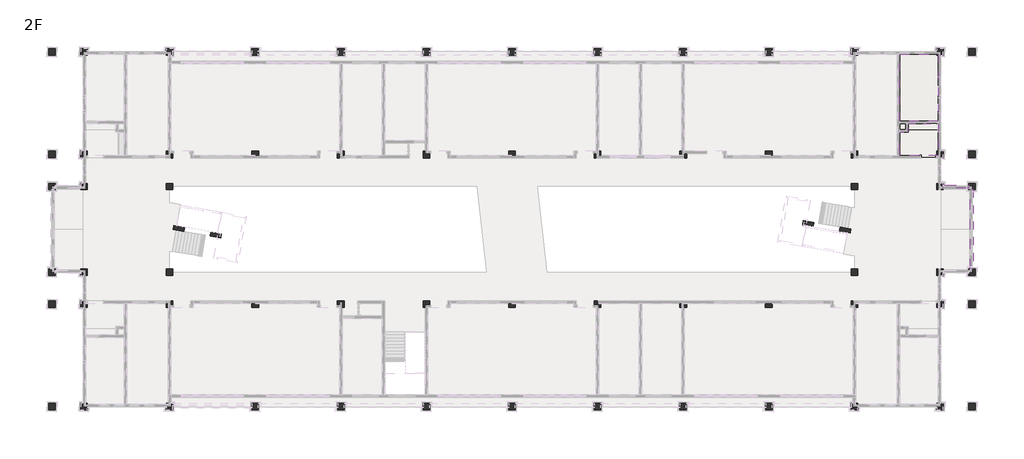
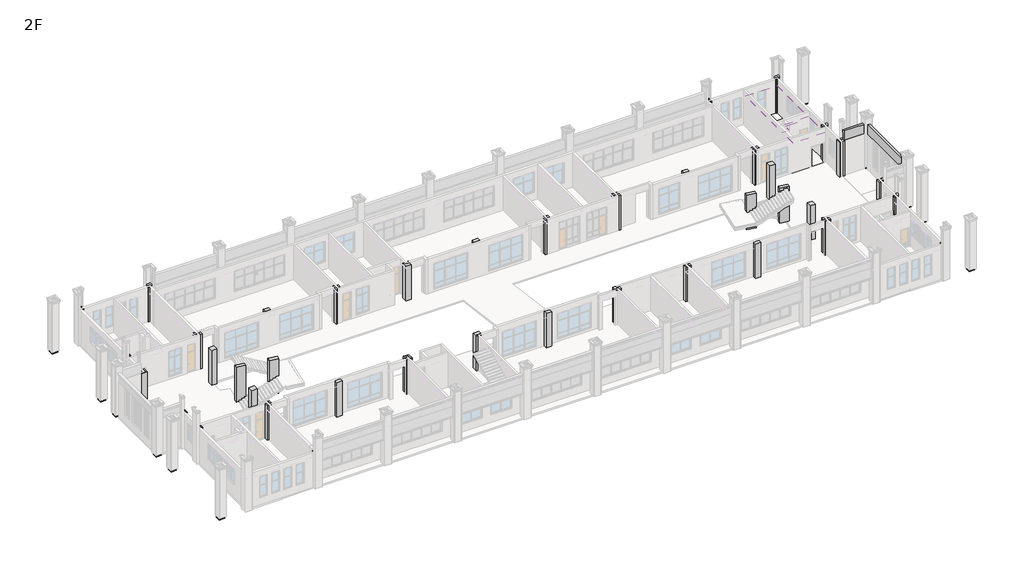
# One storey, part 10 of 16: 69 columns, 2 coverings, 2 proxies, 1 slab.
"""IFC4 building model written with IfcOpenShell, lengths in millimetres."""

from ifc_helpers import new_model, si_unit, frame, origin, place, context, project, spatial, polyline, outline, extrude, faceted_brep, transform, mapped, element, save
from components import column_400_x_1000mm_d9039fd1, column_600_x_600mm_547d8ad0, column_600_x_600mm_9016292c

model = new_model("IFC4")

# Units and contexts
model_context = context("Model", 3, world=origin())
ifc_project = project(units=[si_unit("LENGTHUNIT", "METRE", prefix="MILLI")], contexts=[model_context])

# Site, building, storey
site = spatial("IfcSite", under=ifc_project)
building = spatial("IfcBuilding", under=site)
storey = spatial("IfcBuildingStorey", under=building, Name="2F", Elevation=4200.0)

# Proxies
placement = place(None, origin())
element("IfcBuildingElementProxy", 1, Name="空调板围档", ObjectType="空调板围档", at=placement, inside=storey, context=model_context, shape_type="Brep", body=[
    faceted_brep([(86000.0000012, 12900.0, 9220.0), (86080.0000012, 12900.0, 9220.0), (86080.0000012, 12900.0, 9420.0), (86130.0000012, 12900.0, 9420.0), (86130.0000012, 12900.0, 9520.0), (85850.0000012, 12900.0, 9520.0), (85850.0000012, 12900.0, 8380.9009104), (86000.0000012, 12900.0, 8380.9009104), (86080.0000012, 20300.0, 9220.0), (86000.0000012, 20300.0, 9220.0), (86000.0000012, 20300.0, 8380.8991695), (85850.0000012, 20300.0, 8380.8991695), (85850.0000012, 20300.0, 9520.0), (86130.0000012, 20300.0, 9520.0), (86130.0000012, 20300.0, 9420.0), (86080.0000012, 20300.0, 9420.0), (85850.0000012, 16599.709847, 8392.0), (86000.0000012, 16599.709847, 8392.0)], [[[0, 1, 2, 3, 4, 5, 6, 7]], [[8, 9, 10, 11, 12, 13, 14, 15]], [[1, 0, 9, 8]], [[2, 1, 8, 15]], [[3, 2, 15, 14]], [[4, 3, 14, 13]], [[5, 4, 13, 12]], [[5, 12, 11, 16, 6]], [[9, 0, 7, 17, 10]], [[16, 17, 7, 6]], [[17, 16, 11, 10]]]),
])
element("IfcBuildingElementProxy", 2, Name="空调板围档", ObjectType="空调板围档", at=placement, inside=storey, context=model_context, shape_type="SweptSolid", body=[
    extrude(outline(polyline([(20679.7242304, 9220.0), (20599.7242304, 9220.0), (20599.7242304, 8380.0), (20449.7242304, 8380.4499984), (20449.7242304, 9520.0), (20729.7242304, 9520.0), (20729.7242304, 9420.0), (20679.7242304, 9420.0), (20679.7242304, 9220.0)])), frame((83300.0, 0.0, 0.0), z_axis=(1.0, 0.0, 0.0), x_axis=(0.0, 1.0, 0.0)), (0.0, 0.0, 1.0), 2400.0),
])

# Columns
column_400_x_1000mm_shape = column_400_x_1000mm_d9039fd1(model_context)
element("IfcColumn", 3, ObjectType="矩形柱 : 400 x 1000mm", at=placement, inside=storey, context=model_context, shape_type="MappedRepresentation", body=[
    mapped(column_400_x_1000mm_shape, transform((11868.9667373, 16678.0533194, 0.0), x_axis=(0.9848077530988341, -0.1736481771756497, 0.0), y_axis=(0.1736481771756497, 0.9848077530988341, 0.0), z_axis=(0.0, 0.0, 1.0))),
])
element("IfcColumn", 4, ObjectType="矩形柱 : 400 x 1000mm", at=placement, inside=storey, context=model_context, shape_type="MappedRepresentation", body=[
    mapped(column_400_x_1000mm_shape, transform((15303.6601701, 16071.4403614, 0.0), x_axis=(0.9848077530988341, -0.1736481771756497, 0.0), y_axis=(0.1736481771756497, 0.9848077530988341, 0.0), z_axis=(0.0, 0.0, 1.0))),
])
element("IfcColumn", 5, ObjectType="矩形柱 : 400 x 1000mm", at=placement, inside=storey, context=model_context, shape_type="MappedRepresentation", body=[
    mapped(column_400_x_1000mm_shape, transform((70696.3343657, 17127.6942221, 0.0), x_axis=(0.9848077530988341, -0.1736481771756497, 0.0), y_axis=(0.1736481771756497, 0.9848077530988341, 0.0), z_axis=(0.0, 0.0, 1.0))),
])
element("IfcColumn", 6, ObjectType="矩形柱 : 400 x 1000mm", at=placement, inside=storey, context=model_context, shape_type="MappedRepresentation", body=[
    mapped(column_400_x_1000mm_shape, transform((74131.0357292, 16521.1261705, 0.0), x_axis=(0.9848077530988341, -0.1736481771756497, 0.0), y_axis=(0.1736481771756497, 0.9848077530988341, 0.0), z_axis=(0.0, 0.0, 1.0))),
])
element("IfcColumn", 7, ObjectType="矩形柱 : 600 x 600mm", at=placement, inside=storey, context=model_context, shape_type="SweptSolid", body=[
    extrude(outline(polyline([(11300.0, 33500.0), (11300.0, 32900.0), (11133.0, 32900.0), (11133.0, 32982.6954639), (11133.0, 33232.6954639), (10700.0, 33232.6954639), (10700.0, 33500.0), (11300.0, 33500.0)])), frame((0.0, 0.0, 4200.0), z_axis=(0.0, 0.0, 1.0), x_axis=(1.0, 0.0, 0.0)), (0.0, 0.0, 1.0), 4200.0),
    extrude(outline(polyline([(10700.0, 32900.0), (10700.0, 32982.6954639), (10883.0, 32982.6954639), (10883.0, 32900.0), (10700.0, 32900.0)])), frame((0.0, 0.0, 4200.0), z_axis=(0.0, 0.0, 1.0), x_axis=(1.0, 0.0, 0.0)), (0.0, 0.0, 1.0), 4200.0),
])
element("IfcColumn", 8, ObjectType="矩形柱 : 600 x 600mm", at=placement, inside=storey, context=model_context, shape_type="SweptSolid", body=[
    extrude(outline(polyline([(2700.0, 32900.0), (2700.0, 33500.0), (3300.0, 33500.0), (3300.0, 33232.6954639), (3167.0000002, 33232.6954639), (2917.0000002, 33232.6954639), (2917.0000002, 32900.0), (2700.0, 32900.0)])), frame((0.0, 0.0, 4200.0), z_axis=(0.0, 0.0, 1.0), x_axis=(1.0, 0.0, 0.0)), (0.0, 0.0, 1.0), 4200.0),
    extrude(outline(polyline([(3300.0, 32900.0), (3167.0000002, 32900.0), (3167.0000002, 32982.6954639), (3300.0, 32982.6954639), (3300.0, 32900.0)])), frame((0.0, 0.0, 4200.0), z_axis=(0.0, 0.0, 1.0), x_axis=(1.0, 0.0, 0.0)), (0.0, 0.0, 1.0), 4200.0),
])
element("IfcColumn", 9, ObjectType="矩形柱 : 600 x 600mm", at=placement, inside=storey, context=model_context, shape_type="SweptSolid", body=[
    extrude(outline(polyline([(11300.0, 33500.0), (11300.0, 32900.0), (11133.0, 32900.0), (11133.0, 32982.6954639), (11133.0, 33232.6954639), (10700.0, 33232.6954639), (10700.0, 33500.0), (11300.0, 33500.0)])), frame((0.0, 0.0, 4200.0), z_axis=(0.0, 0.0, 1.0), x_axis=(1.0, 0.0, 0.0)), (0.0, 0.0, 1.0), 4200.0),
    extrude(outline(polyline([(10700.0, 32900.0), (10700.0, 32982.6954639), (10883.0, 32982.6954639), (10883.0, 32900.0), (10700.0, 32900.0)])), frame((0.0, 0.0, 4200.0), z_axis=(0.0, 0.0, 1.0), x_axis=(1.0, 0.0, 0.0)), (0.0, 0.0, 1.0), 4200.0),
])
element("IfcColumn", 10, ObjectType="矩形柱 : 600 x 600mm", at=placement, inside=storey, context=model_context, shape_type="SweptSolid", body=[
    extrude(outline(polyline([(19300.0, 33500.0), (19300.0, 32900.0), (18700.0, 32900.0), (18700.0, 33500.0), (19300.0, 33500.0)])), frame((0.0, 0.0, 4200.0), z_axis=(0.0, 0.0, 1.0), x_axis=(1.0, 0.0, 0.0)), (0.0, 0.0, 1.0), 4200.0),
])
element("IfcColumn", 11, ObjectType="矩形柱 : 600 x 600mm", at=placement, inside=storey, context=model_context, shape_type="SweptSolid", body=[
    extrude(outline(polyline([(27300.0, 33500.0), (27300.0, 32900.0), (26700.0, 32900.0), (26700.0, 33500.0), (27300.0, 33500.0)])), frame((0.0, 0.0, 4200.0), z_axis=(0.0, 0.0, 1.0), x_axis=(1.0, 0.0, 0.0)), (0.0, 0.0, 1.0), 4200.0),
])
element("IfcColumn", 12, ObjectType="矩形柱 : 600 x 600mm", at=placement, inside=storey, context=model_context, shape_type="SweptSolid", body=[
    extrude(outline(polyline([(35300.0, 33500.0), (35300.0, 32900.0), (34700.0, 32900.0), (34700.0, 33500.0), (35300.0, 33500.0)])), frame((0.0, 0.0, 4200.0), z_axis=(0.0, 0.0, 1.0), x_axis=(1.0, 0.0, 0.0)), (0.0, 0.0, 1.0), 4200.0),
])
element("IfcColumn", 13, ObjectType="矩形柱 : 600 x 600mm", at=placement, inside=storey, context=model_context, shape_type="SweptSolid", body=[
    extrude(outline(polyline([(43300.0, 33500.0), (43300.0, 32900.0), (42700.0, 32900.0), (42700.0, 33500.0), (43300.0, 33500.0)])), frame((0.0, 0.0, 4200.0), z_axis=(0.0, 0.0, 1.0), x_axis=(1.0, 0.0, 0.0)), (0.0, 0.0, 1.0), 4200.0),
])
element("IfcColumn", 14, ObjectType="矩形柱 : 600 x 600mm", at=placement, inside=storey, context=model_context, shape_type="SweptSolid", body=[
    extrude(outline(polyline([(51300.0, 33500.0), (51300.0, 32900.0), (50700.0, 32900.0), (50700.0, 33500.0), (51300.0, 33500.0)])), frame((0.0, 0.0, 4200.0), z_axis=(0.0, 0.0, 1.0), x_axis=(1.0, 0.0, 0.0)), (0.0, 0.0, 1.0), 4200.0),
])
element("IfcColumn", 15, ObjectType="矩形柱 : 600 x 600mm", at=placement, inside=storey, context=model_context, shape_type="SweptSolid", body=[
    extrude(outline(polyline([(59300.0, 33500.0), (59300.0, 32900.0), (58700.0, 32900.0), (58700.0, 33500.0), (59300.0, 33500.0)])), frame((0.0, 0.0, 4200.0), z_axis=(0.0, 0.0, 1.0), x_axis=(1.0, 0.0, 0.0)), (0.0, 0.0, 1.0), 4200.0),
])
element("IfcColumn", 16, ObjectType="矩形柱 : 600 x 600mm", at=placement, inside=storey, context=model_context, shape_type="SweptSolid", body=[
    extrude(outline(polyline([(67300.0, 33500.0), (67300.0, 32900.0), (66700.0, 32900.0), (66700.0, 33500.0), (67300.0, 33500.0)])), frame((0.0, 0.0, 4200.0), z_axis=(0.0, 0.0, 1.0), x_axis=(1.0, 0.0, 0.0)), (0.0, 0.0, 1.0), 4200.0),
])
element("IfcColumn", 17, ObjectType="矩形柱 : 600 x 600mm", at=placement, inside=storey, context=model_context, shape_type="SweptSolid", body=[
    extrude(outline(polyline([(-300.0, 20300.0), (-300.0, 20900.0), (300.0, 20900.0), (300.0, 20632.7242304), (216.9999988, 20632.7242304), (-33.0000012, 20632.7242304), (-33.0000012, 20300.0), (-300.0, 20300.0)])), frame((0.0, 0.0, 4200.0), z_axis=(0.0, 0.0, 1.0), x_axis=(1.0, 0.0, 0.0)), (0.0, 0.0, 1.0), 4200.0),
    extrude(outline(polyline([(300.0, 20300.0), (216.9999988, 20300.0), (216.9999988, 20382.7242304), (300.0, 20382.7242304), (300.0, 20300.0)])), frame((0.0, 0.0, 4200.0), z_axis=(0.0, 0.0, 1.0), x_axis=(1.0, 0.0, 0.0)), (0.0, 0.0, 1.0), 4200.0),
])
element("IfcColumn", 18, ObjectType="矩形柱 : 600 x 600mm", at=placement, inside=storey, context=model_context, shape_type="SweptSolid", body=[
    extrude(outline(polyline([(86300.0, 20900.0), (86300.0, 20300.0), (86033.0000012, 20300.0), (86033.0000012, 20632.7242304), (85783.0000012, 20632.7242304), (85700.0, 20632.7242304), (85700.0, 20900.0), (86300.0, 20900.0)])), frame((0.0, 0.0, 4200.0), z_axis=(0.0, 0.0, 1.0), x_axis=(1.0, 0.0, 0.0)), (0.0, 0.0, 1.0), 4200.0),
    extrude(outline(polyline([(85783.0000012, 20300.0), (85700.0, 20300.0), (85700.0, 20382.7242304), (85783.0000012, 20382.7242304), (85783.0000012, 20300.0)])), frame((0.0, 0.0, 4200.0), z_axis=(0.0, 0.0, 1.0), x_axis=(1.0, 0.0, 0.0)), (0.0, 0.0, 1.0), 4200.0),
])
element("IfcColumn", 19, ObjectType="矩形柱 : 600 x 600mm", at=placement, inside=storey, context=model_context, shape_type="SweptSolid", body=[
    extrude(outline(polyline([(19300.0, -300.0), (18700.0, -300.0), (18700.0, 300.0), (19300.0, 300.0), (19300.0, -300.0)])), frame((0.0, 0.0, 4200.0), z_axis=(0.0, 0.0, 1.0), x_axis=(1.0, 0.0, 0.0)), (0.0, 0.0, 1.0), 4200.0),
])
element("IfcColumn", 20, ObjectType="矩形柱 : 600 x 600mm", at=placement, inside=storey, context=model_context, shape_type="SweptSolid", body=[
    extrude(outline(polyline([(27300.0, -300.0), (26700.0, -300.0), (26700.0, 300.0), (27300.0, 300.0), (27300.0, -300.0)])), frame((0.0, 0.0, 4200.0), z_axis=(0.0, 0.0, 1.0), x_axis=(1.0, 0.0, 0.0)), (0.0, 0.0, 1.0), 4200.0),
])
element("IfcColumn", 21, ObjectType="矩形柱 : 600 x 600mm", at=placement, inside=storey, context=model_context, shape_type="SweptSolid", body=[
    extrude(outline(polyline([(35300.0, -300.0), (34700.0, -300.0), (34700.0, 300.0), (35300.0, 300.0), (35300.0, -300.0)])), frame((0.0, 0.0, 4200.0), z_axis=(0.0, 0.0, 1.0), x_axis=(1.0, 0.0, 0.0)), (0.0, 0.0, 1.0), 4200.0),
])
element("IfcColumn", 22, ObjectType="矩形柱 : 600 x 600mm", at=placement, inside=storey, context=model_context, shape_type="SweptSolid", body=[
    extrude(outline(polyline([(43300.0, -300.0), (42700.0, -300.0), (42700.0, 300.0), (43300.0, 300.0), (43300.0, -300.0)])), frame((0.0, 0.0, 4200.0), z_axis=(0.0, 0.0, 1.0), x_axis=(1.0, 0.0, 0.0)), (0.0, 0.0, 1.0), 4200.0),
])
element("IfcColumn", 23, ObjectType="矩形柱 : 600 x 600mm", at=placement, inside=storey, context=model_context, shape_type="SweptSolid", body=[
    extrude(outline(polyline([(51300.0, -300.0), (50700.0, -300.0), (50700.0, 300.0), (51300.0, 300.0), (51300.0, -300.0)])), frame((0.0, 0.0, 4200.0), z_axis=(0.0, 0.0, 1.0), x_axis=(1.0, 0.0, 0.0)), (0.0, 0.0, 1.0), 4200.0),
])
element("IfcColumn", 24, ObjectType="矩形柱 : 600 x 600mm", at=placement, inside=storey, context=model_context, shape_type="SweptSolid", body=[
    extrude(outline(polyline([(59300.0, -300.0), (58700.0, -300.0), (58700.0, 300.0), (59300.0, 300.0), (59300.0, -300.0)])), frame((0.0, 0.0, 4200.0), z_axis=(0.0, 0.0, 1.0), x_axis=(1.0, 0.0, 0.0)), (0.0, 0.0, 1.0), 4200.0),
])
element("IfcColumn", 25, ObjectType="矩形柱 : 600 x 600mm", at=placement, inside=storey, context=model_context, shape_type="SweptSolid", body=[
    extrude(outline(polyline([(67300.0, -300.0), (66700.0, -300.0), (66700.0, 300.0), (67300.0, 300.0), (67300.0, -300.0)])), frame((0.0, 0.0, 4200.0), z_axis=(0.0, 0.0, 1.0), x_axis=(1.0, 0.0, 0.0)), (0.0, 0.0, 1.0), 4200.0),
])
element("IfcColumn", 26, ObjectType="矩形柱 : 600 x 600mm", at=placement, inside=storey, context=model_context, shape_type="SweptSolid", body=[
    extrude(outline(polyline([(75117.0, 300.0), (75300.0, 300.0), (75300.0, 217.3045358), (75117.0, 217.3045358), (75117.0, 300.0)])), frame((0.0, 0.0, 4200.0), z_axis=(0.0, 0.0, 1.0), x_axis=(1.0, 0.0, 0.0)), (0.0, 0.0, 1.0), 4200.0),
    extrude(outline(polyline([(74700.0, -300.0), (74700.0, 300.0), (74867.0, 300.0), (74867.0, -32.6954642), (75117.0, -32.6954642), (75300.0, -32.6954642), (75300.0, -300.0), (74700.0, -300.0)])), frame((0.0, 0.0, 4200.0), z_axis=(0.0, 0.0, 1.0), x_axis=(1.0, 0.0, 0.0)), (0.0, 0.0, 1.0), 4200.0),
])
element("IfcColumn", 27, ObjectType="矩形柱 : 600 x 600mm", at=placement, inside=storey, context=model_context, shape_type="SweptSolid", body=[
    extrude(outline(polyline([(300.0, 12900.0), (300.0, 12816.6954636), (216.9999988, 12816.6954636), (216.9999988, 12900.0), (300.0, 12900.0)])), frame((0.0, 0.0, 4200.0), z_axis=(0.0, 0.0, 1.0), x_axis=(1.0, 0.0, 0.0)), (0.0, 0.0, 1.0), 4200.0),
    extrude(outline(polyline([(300.0, 12300.0), (-300.0, 12300.0), (-300.0, 12900.0), (-33.0000012, 12900.0), (-33.0000012, 12816.6954636), (-33.0000012, 12566.6954636), (300.0, 12566.6954636), (300.0, 12300.0)])), frame((0.0, 0.0, 4200.0), z_axis=(0.0, 0.0, 1.0), x_axis=(1.0, 0.0, 0.0)), (0.0, 0.0, 1.0), 4200.0),
])
element("IfcColumn", 28, ObjectType="矩形柱 : 600 x 600mm", at=placement, inside=storey, context=model_context, shape_type="SweptSolid", body=[
    extrude(outline(polyline([(86300.0, 12300.0), (85700.0, 12300.0), (85700.0, 12566.6954636), (86033.0000012, 12566.6954636), (86033.0000012, 12816.6954636), (86033.0000012, 12900.0), (86300.0, 12900.0), (86300.0, 12300.0)])), frame((0.0, 0.0, 4200.0), z_axis=(0.0, 0.0, 1.0), x_axis=(1.0, 0.0, 0.0)), (0.0, 0.0, 1.0), 4200.0),
    extrude(outline(polyline([(85700.0, 12816.6954636), (85700.0, 12900.0), (85783.0000012, 12900.0), (85783.0000012, 12816.6954636), (85700.0, 12816.6954636)])), frame((0.0, 0.0, 4200.0), z_axis=(0.0, 0.0, 1.0), x_axis=(1.0, 0.0, 0.0)), (0.0, 0.0, 1.0), 4200.0),
])
element("IfcColumn", 29, ObjectType="矩形柱 : 600 x 600mm", at=placement, inside=storey, context=model_context, shape_type="Brep", body=[
    faceted_brep([(3300.0, 23900.0, 8400.0), (3167.0000002, 23900.0, 8400.0), (3167.0000002, 23516.723093, 8400.0), (3300.0, 23516.723093, 8400.0), (3300.0, 23900.0, 4200.0), (3167.0000002, 23900.0, 4200.0), (3300.0, 23516.723093, 6600.0), (3300.0, 23516.723093, 4200.0), (3167.0000002, 23516.723093, 4200.0)], [[[0, 1, 2, 3]], [[0, 4, 5, 1]], [[4, 0, 3, 6, 7]], [[1, 5, 8, 2]], [[5, 4, 7, 8]], [[3, 2, 8, 7, 6]]]),
    faceted_brep([(2700.0, 23300.0, 4200.0), (2700.0, 23900.0, 4200.0), (2917.0000002, 23900.0, 4200.0), (2917.0000002, 23300.0, 4200.0), (2700.0, 23300.0, 8400.0), (2700.0, 23900.0, 8400.0), (2917.0000002, 23300.0, 8400.0), (2917.0000002, 23900.0, 8400.0)], [[[0, 1, 2, 3]], [[4, 5, 1, 0]], [[4, 0, 3, 6]], [[7, 6, 3, 2]], [[5, 4, 6, 7]], [[1, 5, 7, 2]]]),
])
element("IfcColumn", 30, ObjectType="矩形柱 : 600 x 600mm", at=placement, inside=storey, context=model_context, shape_type="SweptSolid", body=[
    extrude(outline(polyline([(83300.0, 33500.0), (83300.0, 32900.0), (83082.9999995, 32900.0), (83082.9999995, 32982.6954642), (83082.9999995, 33232.6954642), (82700.0, 33232.6954642), (82700.0, 33500.0), (83300.0, 33500.0)])), frame((0.0, 0.0, 4200.0), z_axis=(0.0, 0.0, 1.0), x_axis=(1.0, 0.0, 0.0)), (0.0, 0.0, 1.0), 4200.0),
    extrude(outline(polyline([(82700.0, 32900.0), (82700.0, 32982.6954642), (82832.9999995, 32982.6954642), (82832.9999995, 32900.0), (82700.0, 32900.0)])), frame((0.0, 0.0, 4200.0), z_axis=(0.0, 0.0, 1.0), x_axis=(1.0, 0.0, 0.0)), (0.0, 0.0, 1.0), 4200.0),
])
element("IfcColumn", 31, ObjectType="矩形柱 : 600 x 600mm", at=placement, inside=storey, context=model_context, shape_type="SweptSolid", body=[
    extrude(outline(polyline([(83300.0, 23900.0), (83300.0, 23300.0), (83082.9999995, 23300.0), (83082.9999995, 23900.0), (83300.0, 23900.0)])), frame((0.0, 0.0, 4200.0), z_axis=(0.0, 0.0, 1.0), x_axis=(1.0, 0.0, 0.0)), (0.0, 0.0, 1.0), 4200.0),
    extrude(outline(polyline([(82700.0, 23900.0), (82832.9999995, 23900.0), (82832.9999995, 23516.2230996), (82700.0, 23516.2230996), (82700.0, 23900.0)])), frame((0.0, 0.0, 4200.0), z_axis=(0.0, 0.0, 1.0), x_axis=(1.0, 0.0, 0.0)), (0.0, 0.0, 1.0), 4200.0),
])
element("IfcColumn", 32, ObjectType="矩形柱 : 600 x 600mm", at=placement, inside=storey, context=model_context, shape_type="SweptSolid", body=[
    extrude(outline(polyline([(83082.9999995, 20900.0), (83300.0, 20900.0), (83300.0, 20632.7242304), (83082.9999995, 20632.7242304), (83082.9999995, 20900.0)])), frame((0.0, 0.0, 4200.0), z_axis=(0.0, 0.0, 1.0), x_axis=(1.0, 0.0, 0.0)), (0.0, 0.0, 1.0), 4200.0),
    extrude(outline(polyline([(82700.0, 20300.0), (82700.0, 20900.0), (82832.9999995, 20900.0), (82832.9999995, 20300.0), (82700.0, 20300.0)])), frame((0.0, 0.0, 4200.0), z_axis=(0.0, 0.0, 1.0), x_axis=(1.0, 0.0, 0.0)), (0.0, 0.0, 1.0), 4200.0),
    extrude(outline(polyline([(83300.0, 20300.0), (83082.9999995, 20300.0), (83082.9999995, 20382.7242304), (83300.0, 20382.7242304), (83300.0, 20300.0)])), frame((0.0, 0.0, 4200.0), z_axis=(0.0, 0.0, 1.0), x_axis=(1.0, 0.0, 0.0)), (0.0, 0.0, 1.0), 4200.0),
])
element("IfcColumn", 33, ObjectType="矩形柱 : 600 x 600mm", at=placement, inside=storey, context=model_context, shape_type="SweptSolid", body=[
    extrude(outline(polyline([(83082.9999995, 12900.0), (83300.0, 12900.0), (83300.0, 12816.6954636), (83082.9999995, 12816.6954636), (83082.9999995, 12900.0)])), frame((0.0, 0.0, 4200.0), z_axis=(0.0, 0.0, 1.0), x_axis=(1.0, 0.0, 0.0)), (0.0, 0.0, 1.0), 4200.0),
    extrude(outline(polyline([(82700.0, 12300.0), (82700.0, 12900.0), (82832.9999995, 12900.0), (82832.9999995, 12300.0), (82700.0, 12300.0)])), frame((0.0, 0.0, 4200.0), z_axis=(0.0, 0.0, 1.0), x_axis=(1.0, 0.0, 0.0)), (0.0, 0.0, 1.0), 4200.0),
    extrude(outline(polyline([(83300.0, 12300.0), (83082.9999995, 12300.0), (83082.9999995, 12566.6954636), (83300.0, 12566.6954636), (83300.0, 12300.0)])), frame((0.0, 0.0, 4200.0), z_axis=(0.0, 0.0, 1.0), x_axis=(1.0, 0.0, 0.0)), (0.0, 0.0, 1.0), 4200.0),
])
element("IfcColumn", 34, ObjectType="矩形柱 : 600 x 600mm", at=placement, inside=storey, context=model_context, shape_type="Brep", body=[
    faceted_brep([(83300.0, 9300.0, 8400.0), (83300.0, 9900.0, 8400.0), (83082.9999995, 9900.0, 8400.0), (83082.9999995, 9300.0, 8400.0), (83300.0, 9900.0, 4200.0), (83082.9999995, 9900.0, 4200.0), (83300.0, 9300.0, 4200.0), (83082.9999995, 9300.0, 4200.0)], [[[0, 1, 2, 3]], [[1, 4, 5, 2]], [[1, 0, 6, 4]], [[3, 2, 5, 7]], [[4, 6, 7, 5]], [[6, 0, 3, 7]]]),
    faceted_brep([(82832.9999995, 9300.0, 4200.0), (82700.0, 9300.0, 4200.0), (82700.0, 9683.7769004, 4200.0), (82832.9999995, 9683.7769004, 4200.0), (82700.0, 9300.0, 8400.0), (82700.0, 9683.7769004, 8400.0), (82700.0, 9683.7769004, 6600.0), (82832.9999995, 9300.0, 8400.0), (82832.9999995, 9683.7769004, 8400.0)], [[[0, 1, 2, 3]], [[1, 4, 5, 6, 2]], [[4, 1, 0, 7]], [[7, 0, 3, 8]], [[4, 7, 8, 5]], [[3, 2, 6, 5, 8]]]),
])
element("IfcColumn", 35, ObjectType="矩形柱 : 600 x 600mm", at=placement, inside=storey, context=model_context, shape_type="SweptSolid", body=[
    extrude(outline(polyline([(10700.0, 217.3045361), (10700.0, 300.0), (10883.0, 300.0), (10883.0, 217.3045361), (10700.0, 217.3045361)])), frame((0.0, 0.0, 4200.0), z_axis=(0.0, 0.0, 1.0), x_axis=(1.0, 0.0, 0.0)), (0.0, 0.0, 1.0), 4200.0),
    extrude(outline(polyline([(11300.0, 300.0), (11300.0, -300.0), (10700.0, -300.0), (10700.0, -32.6954639), (11133.0, -32.6954639), (11133.0, 217.3045361), (11133.0, 300.0), (11300.0, 300.0)])), frame((0.0, 0.0, 4200.0), z_axis=(0.0, 0.0, 1.0), x_axis=(1.0, 0.0, 0.0)), (0.0, 0.0, 1.0), 4200.0),
])
element("IfcColumn", 36, ObjectType="矩形柱 : 600 x 600mm", at=placement, inside=storey, context=model_context, shape_type="SweptSolid", body=[
    extrude(outline(polyline([(3167.0000002, 300.0), (3300.0, 300.0), (3300.0, 217.3045361), (3167.0000002, 217.3045361), (3167.0000002, 300.0)])), frame((0.0, 0.0, 4200.0), z_axis=(0.0, 0.0, 1.0), x_axis=(1.0, 0.0, 0.0)), (0.0, 0.0, 1.0), 4200.0),
    extrude(outline(polyline([(3300.0, -300.0), (2700.0, -300.0), (2700.0, 300.0), (2917.0000002, 300.0), (2917.0000002, -32.6954639), (3167.0000002, -32.6954639), (3300.0, -32.6954639), (3300.0, -300.0)])), frame((0.0, 0.0, 4200.0), z_axis=(0.0, 0.0, 1.0), x_axis=(1.0, 0.0, 0.0)), (0.0, 0.0, 1.0), 4200.0),
])
element("IfcColumn", 37, ObjectType="矩形柱 : 600 x 600mm", at=placement, inside=storey, context=model_context, shape_type="Brep", body=[
    faceted_brep([(3167.0000002, 9300.0, 8400.0), (3300.0, 9300.0, 8400.0), (3300.0, 9683.276907, 8400.0), (3167.0000002, 9683.276907, 8400.0), (3300.0, 9300.0, 4200.0), (3300.0, 9683.276907, 4200.0), (3300.0, 9683.276907, 6600.0), (3167.0000002, 9300.0, 4200.0), (3167.0000002, 9683.276907, 4200.0)], [[[0, 1, 2, 3]], [[1, 4, 5, 6, 2]], [[7, 0, 3, 8]], [[4, 7, 8, 5]], [[4, 1, 0, 7]], [[3, 2, 6, 5, 8]]]),
    faceted_brep([(2700.0, 9300.0, 4200.0), (2700.0, 9900.0, 4200.0), (2917.0000002, 9900.0, 4200.0), (2917.0000002, 9300.0, 4200.0), (2700.0, 9300.0, 8400.0), (2700.0, 9900.0, 8400.0), (2917.0000002, 9300.0, 8400.0), (2917.0000002, 9900.0, 8400.0)], [[[0, 1, 2, 3]], [[4, 5, 1, 0]], [[4, 0, 3, 6]], [[7, 6, 3, 2]], [[5, 4, 6, 7]], [[1, 5, 7, 2]]]),
])
element("IfcColumn", 38, ObjectType="矩形柱 : 600 x 600mm", at=placement, inside=storey, context=model_context, shape_type="SweptSolid", body=[
    extrude(outline(polyline([(3300.0, 12900.0), (3300.0, 12300.0), (3167.0000002, 12300.0), (3167.0000002, 12816.6954636), (2917.0000002, 12816.6954636), (2700.0, 12816.6954636), (2700.0, 12900.0), (3300.0, 12900.0)])), frame((0.0, 0.0, 4200.0), z_axis=(0.0, 0.0, 1.0), x_axis=(1.0, 0.0, 0.0)), (0.0, 0.0, 1.0), 4200.0),
    extrude(outline(polyline([(2917.0000002, 12300.0), (2700.0, 12300.0), (2700.0, 12566.6954636), (2917.0000002, 12566.6954636), (2917.0000002, 12300.0)])), frame((0.0, 0.0, 4200.0), z_axis=(0.0, 0.0, 1.0), x_axis=(1.0, 0.0, 0.0)), (0.0, 0.0, 1.0), 4200.0),
])
element("IfcColumn", 39, ObjectType="矩形柱 : 600 x 600mm", at=placement, inside=storey, context=model_context, shape_type="SweptSolid", body=[
    extrude(outline(polyline([(2700.0, 20900.0), (2917.0000002, 20900.0), (2917.0000002, 20632.7242304), (2700.0, 20632.7242304), (2700.0, 20900.0)])), frame((0.0, 0.0, 4200.0), z_axis=(0.0, 0.0, 1.0), x_axis=(1.0, 0.0, 0.0)), (0.0, 0.0, 1.0), 4200.0),
    extrude(outline(polyline([(3300.0, 20900.0), (3300.0, 20300.0), (2700.0, 20300.0), (2700.0, 20382.7242304), (2917.0000002, 20382.7242304), (3167.0000002, 20382.7242304), (3167.0000002, 20900.0), (3300.0, 20900.0)])), frame((0.0, 0.0, 4200.0), z_axis=(0.0, 0.0, 1.0), x_axis=(1.0, 0.0, 0.0)), (0.0, 0.0, 1.0), 4200.0),
])
element("IfcColumn", 40, ObjectType="矩形柱 : 600 x 600mm", at=placement, inside=storey, context=model_context, shape_type="SweptSolid", body=[
    extrude(outline(polyline([(74700.0, 32900.0), (74700.0, 33500.0), (75300.0, 33500.0), (75300.0, 33232.6954642), (75117.0, 33232.6954642), (74867.0, 33232.6954642), (74867.0, 32900.0), (74700.0, 32900.0)])), frame((0.0, 0.0, 4200.0), z_axis=(0.0, 0.0, 1.0), x_axis=(1.0, 0.0, 0.0)), (0.0, 0.0, 1.0), 4200.0),
    extrude(outline(polyline([(75300.0, 32900.0), (75117.0, 32900.0), (75117.0, 32982.6954642), (75300.0, 32982.6954642), (75300.0, 32900.0)])), frame((0.0, 0.0, 4200.0), z_axis=(0.0, 0.0, 1.0), x_axis=(1.0, 0.0, 0.0)), (0.0, 0.0, 1.0), 4200.0),
])
element("IfcColumn", 41, ObjectType="矩形柱 : 600 x 600mm", at=placement, inside=storey, context=model_context, shape_type="SweptSolid", body=[
    extrude(outline(polyline([(82700.0, 217.3045358), (82700.0, 300.0), (82832.9999995, 300.0), (82832.9999995, 217.3045358), (82700.0, 217.3045358)])), frame((0.0, 0.0, 4200.0), z_axis=(0.0, 0.0, 1.0), x_axis=(1.0, 0.0, 0.0)), (0.0, 0.0, 1.0), 4200.0),
    extrude(outline(polyline([(83300.0, 300.0), (83300.0, -300.0), (82700.0, -300.0), (82700.0, -32.6954642), (83082.9999995, -32.6954642), (83082.9999995, 217.3045358), (83082.9999995, 300.0), (83300.0, 300.0)])), frame((0.0, 0.0, 4200.0), z_axis=(0.0, 0.0, 1.0), x_axis=(1.0, 0.0, 0.0)), (0.0, 0.0, 1.0), 4200.0),
])
column_600_x_600mm_shape = column_600_x_600mm_547d8ad0(model_context)
element("IfcColumn", 42, ObjectType="矩形柱 : 600 x 600mm", at=placement, inside=storey, context=model_context, shape_type="MappedRepresentation", body=[
    mapped(column_600_x_600mm_shape, transform((0.0, 33200.0, 0.0), x_axis=(1.0, 0.0, 0.0), y_axis=(0.0, 1.0, 0.0), z_axis=(0.0, 0.0, 1.0))),
])
element("IfcColumn", 43, ObjectType="矩形柱 : 600 x 600mm", at=placement, inside=storey, context=model_context, shape_type="MappedRepresentation", body=[
    mapped(column_600_x_600mm_shape, transform((86000.0, 33200.0, 0.0), x_axis=(1.0, 0.0, 0.0), y_axis=(0.0, 1.0, 0.0), z_axis=(0.0, 0.0, 1.0))),
])
element("IfcColumn", 44, ObjectType="矩形柱 : 600 x 600mm", at=placement, inside=storey, context=model_context, shape_type="MappedRepresentation", body=[
    mapped(column_600_x_600mm_shape, transform((86000.0, 23600.0, 0.0), x_axis=(1.0, 0.0, 0.0), y_axis=(0.0, 1.0, 0.0), z_axis=(0.0, 0.0, 1.0))),
])
element("IfcColumn", 45, ObjectType="矩形柱 : 600 x 600mm", at=placement, inside=storey, context=model_context, shape_type="MappedRepresentation", body=[
    mapped(column_600_x_600mm_shape, transform((0.0, 23600.0, 0.0), x_axis=(1.0, 0.0, 0.0), y_axis=(0.0, 1.0, 0.0), z_axis=(0.0, 0.0, 1.0))),
])
element("IfcColumn", 46, ObjectType="矩形柱 : 600 x 600mm", at=placement, inside=storey, context=model_context, shape_type="MappedRepresentation", body=[
    mapped(column_600_x_600mm_shape, transform((11000.0, 20600.0, 0.0), x_axis=(1.0, 0.0, 0.0), y_axis=(0.0, 1.0, 0.0), z_axis=(0.0, 0.0, 1.0))),
])
element("IfcColumn", 47, ObjectType="矩形柱 : 600 x 600mm", at=placement, inside=storey, context=model_context, shape_type="MappedRepresentation", body=[
    mapped(column_600_x_600mm_shape, transform((75000.0, 20600.0, 0.0), x_axis=(1.0, 0.0, 0.0), y_axis=(0.0, 1.0, 0.0), z_axis=(0.0, 0.0, 1.0))),
])
element("IfcColumn", 48, ObjectType="矩形柱 : 600 x 600mm", at=placement, inside=storey, context=model_context, shape_type="MappedRepresentation", body=[
    mapped(column_600_x_600mm_shape, transform((86000.0, 0.0, 0.0), x_axis=(1.0, 0.0, 0.0), y_axis=(0.0, 1.0, 0.0), z_axis=(0.0, 0.0, 1.0))),
])
column_600_x_600mm_2_shape = column_600_x_600mm_9016292c(model_context)
element("IfcColumn", 49, ObjectType="矩形柱 : 600 x 600mm", at=placement, inside=storey, context=model_context, shape_type="MappedRepresentation", body=[
    mapped(column_600_x_600mm_2_shape, transform((0.0, 0.0, 0.0), x_axis=(1.0, 0.0, 0.0), y_axis=(0.0, 1.0, 0.0), z_axis=(0.0, 0.0, 1.0))),
])
element("IfcColumn", 50, ObjectType="矩形柱 : 600 x 600mm", at=placement, inside=storey, context=model_context, shape_type="MappedRepresentation", body=[
    mapped(column_600_x_600mm_2_shape, transform((86000.0, 9600.0, 0.0), x_axis=(1.0, 0.0, 0.0), y_axis=(0.0, 1.0, 0.0), z_axis=(0.0, 0.0, 1.0))),
])
element("IfcColumn", 51, ObjectType="矩形柱 : 600 x 600mm", at=placement, inside=storey, context=model_context, shape_type="MappedRepresentation", body=[
    mapped(column_600_x_600mm_2_shape, transform((0.0, 9600.0, 0.0), x_axis=(1.0, 0.0, 0.0), y_axis=(0.0, 1.0, 0.0), z_axis=(0.0, 0.0, 1.0))),
])
element("IfcColumn", 52, ObjectType="矩形柱 : 600 x 600mm", at=placement, inside=storey, context=model_context, shape_type="MappedRepresentation", body=[
    mapped(column_600_x_600mm_2_shape, transform((11000.0, 12600.0, 0.0), x_axis=(1.0, 0.0, 0.0), y_axis=(0.0, 1.0, 0.0), z_axis=(0.0, 0.0, 1.0))),
])
element("IfcColumn", 53, ObjectType="矩形柱 : 600 x 600mm", at=placement, inside=storey, context=model_context, shape_type="MappedRepresentation", body=[
    mapped(column_600_x_600mm_2_shape, transform((75000.0, 12600.0, 0.0), x_axis=(1.0, 0.0, 0.0), y_axis=(0.0, 1.0, 0.0), z_axis=(0.0, 0.0, 1.0))),
])
element("IfcColumn", 54, ObjectType="矩形柱 : 634 x 634mm", at=placement, inside=storey, context=model_context, shape_type="SweptSolid", body=[
    extrude(outline(polyline([(75117.0, 23917.0), (75317.0, 23917.0), (75317.0, 23516.2230996), (75117.0, 23516.2230996), (75117.0, 23917.0)])), frame((0.0, 0.0, 4200.0), z_axis=(0.0, 0.0, 1.0), x_axis=(1.0, 0.0, 0.0)), (0.0, 0.0, 1.0), 4200.0),
    extrude(outline(polyline([(74683.0, 23917.0), (74883.0, 23917.0), (74883.0, 23916.7231011), (74683.0, 23916.7231011), (74683.0, 23917.0)])), frame((0.0, 0.0, 4200.0), z_axis=(0.0, 0.0, 1.0), x_axis=(1.0, 0.0, 0.0)), (0.0, 0.0, 1.0), 4200.0),
    extrude(outline(polyline([(74883.0, 23283.0), (74683.0, 23283.0), (74683.0, 23682.7231011), (74883.0, 23682.7231011), (74883.0, 23283.0)])), frame((0.0, 0.0, 4200.0), z_axis=(0.0, 0.0, 1.0), x_axis=(1.0, 0.0, 0.0)), (0.0, 0.0, 1.0), 4200.0),
])
element("IfcColumn", 55, ObjectType="矩形柱 : 634 x 634mm", at=placement, inside=storey, context=model_context, shape_type="SweptSolid", body=[
    extrude(outline(polyline([(66683.0, 23917.0), (67317.0, 23917.0), (67317.0, 23516.6954638), (66683.0, 23516.6954638), (66683.0, 23917.0)])), frame((0.0, 0.0, 4200.0), z_axis=(0.0, 0.0, 1.0), x_axis=(1.0, 0.0, 0.0)), (0.0, 0.0, 1.0), 4200.0),
])
element("IfcColumn", 56, ObjectType="矩形柱 : 634 x 634mm", at=placement, inside=storey, context=model_context, shape_type="SweptSolid", body=[
    extrude(outline(polyline([(59117.0, 23917.0), (59317.0, 23917.0), (59317.0, 23916.7231012), (59117.0, 23916.7231012), (59117.0, 23917.0)])), frame((0.0, 0.0, 4200.0), z_axis=(0.0, 0.0, 1.0), x_axis=(1.0, 0.0, 0.0)), (0.0, 0.0, 1.0), 4200.0),
    extrude(outline(polyline([(58683.0, 23917.0), (58883.0, 23917.0), (58883.0, 23516.6954639), (58683.0, 23516.6954639), (58683.0, 23917.0)])), frame((0.0, 0.0, 4200.0), z_axis=(0.0, 0.0, 1.0), x_axis=(1.0, 0.0, 0.0)), (0.0, 0.0, 1.0), 4200.0),
    extrude(outline(polyline([(59317.0, 23682.7231012), (59317.0, 23283.0), (59117.0, 23283.0), (59117.0, 23516.6954639), (59117.0, 23682.7231012), (59317.0, 23682.7231012)])), frame((0.0, 0.0, 4200.0), z_axis=(0.0, 0.0, 1.0), x_axis=(1.0, 0.0, 0.0)), (0.0, 0.0, 1.0), 4200.0),
])
element("IfcColumn", 57, ObjectType="矩形柱 : 634 x 634mm", at=placement, inside=storey, context=model_context, shape_type="SweptSolid", body=[
    extrude(outline(polyline([(51117.0, 23917.0), (51317.0, 23917.0), (51317.0, 23516.6954639), (51117.0, 23516.6954639), (51117.0, 23917.0)])), frame((0.0, 0.0, 4200.0), z_axis=(0.0, 0.0, 1.0), x_axis=(1.0, 0.0, 0.0)), (0.0, 0.0, 1.0), 4200.0),
    extrude(outline(polyline([(50683.0, 23917.0), (50883.0, 23917.0), (50883.0, 23916.7231007), (50683.0, 23916.7231007), (50683.0, 23917.0)])), frame((0.0, 0.0, 4200.0), z_axis=(0.0, 0.0, 1.0), x_axis=(1.0, 0.0, 0.0)), (0.0, 0.0, 1.0), 4200.0),
    extrude(outline(polyline([(50883.0, 23283.0), (50683.0, 23283.0), (50683.0, 23682.7231007), (50883.0, 23682.7231007), (50883.0, 23516.6954639), (50883.0, 23283.0)])), frame((0.0, 0.0, 4200.0), z_axis=(0.0, 0.0, 1.0), x_axis=(1.0, 0.0, 0.0)), (0.0, 0.0, 1.0), 4200.0),
])
element("IfcColumn", 58, ObjectType="矩形柱 : 634 x 634mm", at=placement, inside=storey, context=model_context, shape_type="SweptSolid", body=[
    extrude(outline(polyline([(42683.0, 23917.0), (43317.0, 23917.0), (43317.0, 23516.695464), (42683.0, 23516.695464), (42683.0, 23917.0)])), frame((0.0, 0.0, 4200.0), z_axis=(0.0, 0.0, 1.0), x_axis=(1.0, 0.0, 0.0)), (0.0, 0.0, 1.0), 4200.0),
])
element("IfcColumn", 59, ObjectType="矩形柱 : 634 x 634mm", at=placement, inside=storey, context=model_context, shape_type="SweptSolid", body=[
    extrude(outline(polyline([(35117.0, 23917.0), (35317.0, 23917.0), (35317.0, 23916.7231012), (35117.0, 23916.7231012), (35117.0, 23917.0)])), frame((0.0, 0.0, 4200.0), z_axis=(0.0, 0.0, 1.0), x_axis=(1.0, 0.0, 0.0)), (0.0, 0.0, 1.0), 4200.0),
    extrude(outline(polyline([(35317.0, 23283.0), (34683.0, 23283.0), (34683.0, 23917.0), (34883.0, 23917.0), (34883.0, 23682.7231012), (35117.0, 23682.7231012), (35317.0, 23682.7231012), (35317.0, 23283.0)])), frame((0.0, 0.0, 4200.0), z_axis=(0.0, 0.0, 1.0), x_axis=(1.0, 0.0, 0.0)), (0.0, 0.0, 1.0), 4200.0),
])
element("IfcColumn", 60, ObjectType="矩形柱 : 634 x 634mm", at=placement, inside=storey, context=model_context, shape_type="SweptSolid", body=[
    extrude(outline(polyline([(27117.0, 23917.0), (27317.0, 23917.0), (27317.0, 23516.6954638), (27117.0, 23516.6954638), (27117.0, 23917.0)])), frame((0.0, 0.0, 4200.0), z_axis=(0.0, 0.0, 1.0), x_axis=(1.0, 0.0, 0.0)), (0.0, 0.0, 1.0), 4200.0),
    extrude(outline(polyline([(26683.0, 23917.0), (26883.0, 23917.0), (26883.0, 23916.7231007), (26683.0, 23916.7231007), (26683.0, 23917.0)])), frame((0.0, 0.0, 4200.0), z_axis=(0.0, 0.0, 1.0), x_axis=(1.0, 0.0, 0.0)), (0.0, 0.0, 1.0), 4200.0),
    extrude(outline(polyline([(26883.0, 23283.0), (26683.0, 23283.0), (26683.0, 23682.7231007), (26883.0, 23682.7231007), (26883.0, 23516.6954638), (26883.0, 23283.0)])), frame((0.0, 0.0, 4200.0), z_axis=(0.0, 0.0, 1.0), x_axis=(1.0, 0.0, 0.0)), (0.0, 0.0, 1.0), 4200.0),
])
element("IfcColumn", 61, ObjectType="矩形柱 : 634 x 634mm", at=placement, inside=storey, context=model_context, shape_type="SweptSolid", body=[
    extrude(outline(polyline([(18683.0, 23917.0), (19317.0, 23917.0), (19317.0, 23516.6954641), (18683.0, 23516.6954641), (18683.0, 23917.0)])), frame((0.0, 0.0, 4200.0), z_axis=(0.0, 0.0, 1.0), x_axis=(1.0, 0.0, 0.0)), (0.0, 0.0, 1.0), 4200.0),
])
element("IfcColumn", 62, ObjectType="矩形柱 : 634 x 634mm", at=placement, inside=storey, context=model_context, shape_type="SweptSolid", body=[
    extrude(outline(polyline([(11317.0, 23682.7231012), (11317.0, 23282.723093), (11117.0, 23282.723093), (11117.0, 23516.723093), (11117.0, 23682.7231012), (11317.0, 23682.7231012)])), frame((0.0, 0.0, 4200.0), z_axis=(0.0, 0.0, 1.0), x_axis=(1.0, 0.0, 0.0)), (0.0, 0.0, 1.0), 4200.0),
    extrude(outline(polyline([(10683.0, 23916.723093), (10883.0, 23916.723093), (10883.0, 23516.723093), (10683.0, 23516.723093), (10683.0, 23916.723093)])), frame((0.0, 0.0, 4200.0), z_axis=(0.0, 0.0, 1.0), x_axis=(1.0, 0.0, 0.0)), (0.0, 0.0, 1.0), 4200.0),
])
element("IfcColumn", 63, ObjectType="矩形柱 : 634 x 634mm", at=placement, inside=storey, context=model_context, shape_type="SweptSolid", body=[
    extrude(outline(polyline([(75317.0, 9283.0), (75117.0, 9283.0), (75117.0, 9683.7769004), (75317.0, 9683.7769004), (75317.0, 9283.0)])), frame((0.0, 0.0, 4200.0), z_axis=(0.0, 0.0, 1.0), x_axis=(1.0, 0.0, 0.0)), (0.0, 0.0, 1.0), 4200.0),
    extrude(outline(polyline([(74683.0, 9917.0), (74883.0, 9917.0), (74883.0, 9517.2768989), (74683.0, 9517.2768989), (74683.0, 9917.0)])), frame((0.0, 0.0, 4200.0), z_axis=(0.0, 0.0, 1.0), x_axis=(1.0, 0.0, 0.0)), (0.0, 0.0, 1.0), 4200.0),
    extrude(outline(polyline([(74883.0, 9283.0), (74683.0, 9283.0), (74683.0, 9283.2768989), (74883.0, 9283.2768989), (74883.0, 9283.0)])), frame((0.0, 0.0, 4200.0), z_axis=(0.0, 0.0, 1.0), x_axis=(1.0, 0.0, 0.0)), (0.0, 0.0, 1.0), 4200.0),
])
element("IfcColumn", 64, ObjectType="矩形柱 : 634 x 634mm", at=placement, inside=storey, context=model_context, shape_type="SweptSolid", body=[
    extrude(outline(polyline([(67317.0, 9283.0), (66683.0, 9283.0), (66683.0, 9683.3045361), (67317.0, 9683.3045361), (67317.0, 9283.0)])), frame((0.0, 0.0, 4200.0), z_axis=(0.0, 0.0, 1.0), x_axis=(1.0, 0.0, 0.0)), (0.0, 0.0, 1.0), 4200.0),
])
element("IfcColumn", 65, ObjectType="矩形柱 : 634 x 634mm", at=placement, inside=storey, context=model_context, shape_type="SweptSolid", body=[
    extrude(outline(polyline([(59317.0, 9683.3045361), (59317.0, 9283.0), (59117.0, 9283.0), (59117.0, 9683.3045361), (59317.0, 9683.3045361)])), frame((0.0, 0.0, 4200.0), z_axis=(0.0, 0.0, 1.0), x_axis=(1.0, 0.0, 0.0)), (0.0, 0.0, 1.0), 4200.0),
    extrude(outline(polyline([(58683.0, 9283.0), (58683.0, 9683.3045361), (58883.0, 9683.3045361), (58883.0, 9283.0), (58683.0, 9283.0)])), frame((0.0, 0.0, 4200.0), z_axis=(0.0, 0.0, 1.0), x_axis=(1.0, 0.0, 0.0)), (0.0, 0.0, 1.0), 4200.0),
])
element("IfcColumn", 66, ObjectType="矩形柱 : 634 x 634mm", at=placement, inside=storey, context=model_context, shape_type="SweptSolid", body=[
    extrude(outline(polyline([(51317.0, 9283.0), (51117.0, 9283.0), (51117.0, 9517.2768993), (50883.0, 9517.2768993), (50683.0, 9517.2768993), (50683.0, 9917.0), (51000.0, 9917.0), (51000.0, 9683.3045361), (51317.0, 9683.3045361), (51317.0, 9283.0)])), frame((0.0, 0.0, 4200.0), z_axis=(0.0, 0.0, 1.0), x_axis=(1.0, 0.0, 0.0)), (0.0, 0.0, 1.0), 4200.0),
    extrude(outline(polyline([(50883.0, 9283.0), (50683.0, 9283.0), (50683.0, 9283.2768993), (50883.0, 9283.2768993), (50883.0, 9283.0)])), frame((0.0, 0.0, 4200.0), z_axis=(0.0, 0.0, 1.0), x_axis=(1.0, 0.0, 0.0)), (0.0, 0.0, 1.0), 4200.0),
])
element("IfcColumn", 67, ObjectType="矩形柱 : 634 x 634mm", at=placement, inside=storey, context=model_context, shape_type="SweptSolid", body=[
    extrude(outline(polyline([(43317.0, 9283.0), (42683.0, 9283.0), (42683.0, 9683.304536), (43317.0, 9683.304536), (43317.0, 9283.0)])), frame((0.0, 0.0, 4200.0), z_axis=(0.0, 0.0, 1.0), x_axis=(1.0, 0.0, 0.0)), (0.0, 0.0, 1.0), 4200.0),
])
element("IfcColumn", 68, ObjectType="矩形柱 : 634 x 634mm", at=placement, inside=storey, context=model_context, shape_type="SweptSolid", body=[
    extrude(outline(polyline([(35317.0, 9283.0), (35117.0, 9283.0), (35117.0, 9283.2768988), (35317.0, 9283.2768988), (35317.0, 9283.0)])), frame((0.0, 0.0, 4200.0), z_axis=(0.0, 0.0, 1.0), x_axis=(1.0, 0.0, 0.0)), (0.0, 0.0, 1.0), 4200.0),
    extrude(outline(polyline([(34683.0, 9917.0), (35317.0, 9917.0), (35317.0, 9517.2768988), (35117.0, 9517.2768988), (34883.0, 9517.2768988), (34883.0, 9283.0), (34683.0, 9283.0), (34683.0, 9917.0)])), frame((0.0, 0.0, 4200.0), z_axis=(0.0, 0.0, 1.0), x_axis=(1.0, 0.0, 0.0)), (0.0, 0.0, 1.0), 4200.0),
])
element("IfcColumn", 69, ObjectType="矩形柱 : 634 x 634mm", at=placement, inside=storey, context=model_context, shape_type="SweptSolid", body=[
    extrude(outline(polyline([(27317.0, 9917.0), (27317.0, 9283.0), (27117.0, 9283.0), (27117.0, 9800.3045362), (26883.0, 9800.3045362), (26883.0, 9517.2768993), (26683.0, 9517.2768993), (26683.0, 9917.0), (27317.0, 9917.0)])), frame((0.0, 0.0, 4200.0), z_axis=(0.0, 0.0, 1.0), x_axis=(1.0, 0.0, 0.0)), (0.0, 0.0, 1.0), 4200.0),
    extrude(outline(polyline([(26883.0, 9283.0), (26683.0, 9283.0), (26683.0, 9283.2768993), (26883.0, 9283.2768993), (26883.0, 9283.0)])), frame((0.0, 0.0, 4200.0), z_axis=(0.0, 0.0, 1.0), x_axis=(1.0, 0.0, 0.0)), (0.0, 0.0, 1.0), 4200.0),
])
element("IfcColumn", 70, ObjectType="矩形柱 : 634 x 634mm", at=placement, inside=storey, context=model_context, shape_type="SweptSolid", body=[
    extrude(outline(polyline([(19317.0, 9283.0), (18683.0, 9283.0), (18683.0, 9683.3045359), (19317.0, 9683.3045359), (19317.0, 9283.0)])), frame((0.0, 0.0, 4200.0), z_axis=(0.0, 0.0, 1.0), x_axis=(1.0, 0.0, 0.0)), (0.0, 0.0, 1.0), 4200.0),
])
element("IfcColumn", 71, ObjectType="矩形柱 : 634 x 634mm", at=placement, inside=storey, context=model_context, shape_type="SweptSolid", body=[
    extrude(outline(polyline([(11117.0, 9917.0), (11317.0, 9917.0), (11317.0, 9517.2768988), (11117.0, 9517.2768988), (11117.0, 9917.0)])), frame((0.0, 0.0, 4200.0), z_axis=(0.0, 0.0, 1.0), x_axis=(1.0, 0.0, 0.0)), (0.0, 0.0, 1.0), 4200.0),
    extrude(outline(polyline([(10883.0, 9283.0), (10683.0, 9283.0), (10683.0, 9683.276907), (10883.0, 9683.276907), (10883.0, 9283.0)])), frame((0.0, 0.0, 4200.0), z_axis=(0.0, 0.0, 1.0), x_axis=(1.0, 0.0, 0.0)), (0.0, 0.0, 1.0), 4200.0),
    extrude(outline(polyline([(11317.0, 9283.0), (11117.0, 9283.0), (11117.0, 9283.2768988), (11317.0, 9283.2768988), (11317.0, 9283.0)])), frame((0.0, 0.0, 4200.0), z_axis=(0.0, 0.0, 1.0), x_axis=(1.0, 0.0, 0.0)), (0.0, 0.0, 1.0), 4200.0),
])

# Coverings
element("IfcCovering", 72, ObjectType="教学楼 - 悬吊式顶棚 - 36mm", at=placement, inside=storey, context=model_context, shape_type="SweptSolid", body=[
    extrude(outline(polyline([(79217.0000003, 26716.2230996), (79217.0000003, 32982.6954642), (82832.9999995, 32982.6954642), (82832.9999995, 26716.2230996), (79217.0000003, 26716.2230996)])), frame((0.0, 0.0, 7600.0), z_axis=(0.0, 0.0, 1.0), x_axis=(1.0, 0.0, 0.0)), (0.0, 0.0, 1.0), 52.0),
])
element("IfcCovering", 73, ObjectType="教学楼 - 悬吊式顶棚 - 36mm", at=placement, inside=storey, context=model_context, shape_type="SweptSolid", body=[
    extrude(outline(polyline([(82832.9999995, 26482.2230996), (82832.9999995, 23516.2230996), (79217.0000003, 23516.2230996), (79217.0000003, 25682.2230996), (80016.9999995, 25682.2230996), (80016.9999995, 26482.2230996), (82832.9999995, 26482.2230996)])), frame((0.0, 0.0, 7600.0), z_axis=(0.0, 0.0, 1.0), x_axis=(1.0, 0.0, 0.0)), (0.0, 0.0, 1.0), 52.0),
])

# Slab
element("IfcSlab", 74, ObjectType="教学楼 – 防水楼面 – 120mm", at=placement, inside=storey, context=model_context, shape_type="SweptSolid", body=[
    extrude(outline(polyline([(33199.6954639, 3970.0), (23299.723093, 3970.0), (23299.723093, 4200.0), (25900.0, 4150.0), (33199.6954639, 4300.0), (33199.6954639, 3970.0)])), frame((78999.9999997, 0.0, 0.0), z_axis=(1.0, 0.0, 0.0), x_axis=(0.0, 1.0, 0.0)), (0.0, 0.0, 1.0), 4050.0000001),
])

save(model, "model.ifc")
